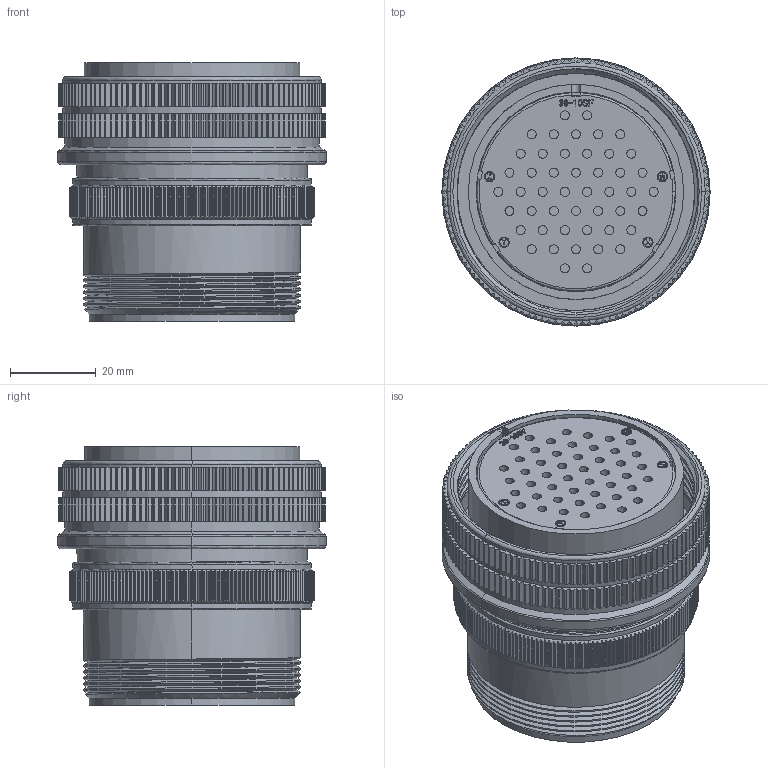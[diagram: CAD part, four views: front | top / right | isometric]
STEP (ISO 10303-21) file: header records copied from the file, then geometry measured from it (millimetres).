
FILE_DESCRIPTION (( 'STEP AP203' ), '1' );
FILE_NAME ('DMS3106A36-10S.STEP', '2017-03-02T08:46:19', ( '' ), ( '' ), 'SwSTEP 2.0', 'SolidWorks 2015', '' );
FILE_SCHEMA (( 'CONFIG_CONTROL_DESIGN' ));
Length unit declared in the file: millimetre
Products named in the file (1): DMS3106A36-10S
Bounding box: 62.63 x 62.63 x 60.31 mm (x, y, z)
Volume: 92194.6 mm3; surface area: 55805.8 mm2
Topology: 1 solids, 1 shells, 3958 faces, 11230 edges, 7472 vertices
Faces by surface type: plane 1874, cylinder 1843, bspline 222, cone 19
Entity records: 151255 total; most frequent: CARTESIAN_POINT 53380, ORIENTED_EDGE 22460, DIRECTION 17618, EDGE_CURVE 11230, VERTEX_POINT 7472, LINE 6012, VECTOR 6012, AXIS2_PLACEMENT_3D 5803
